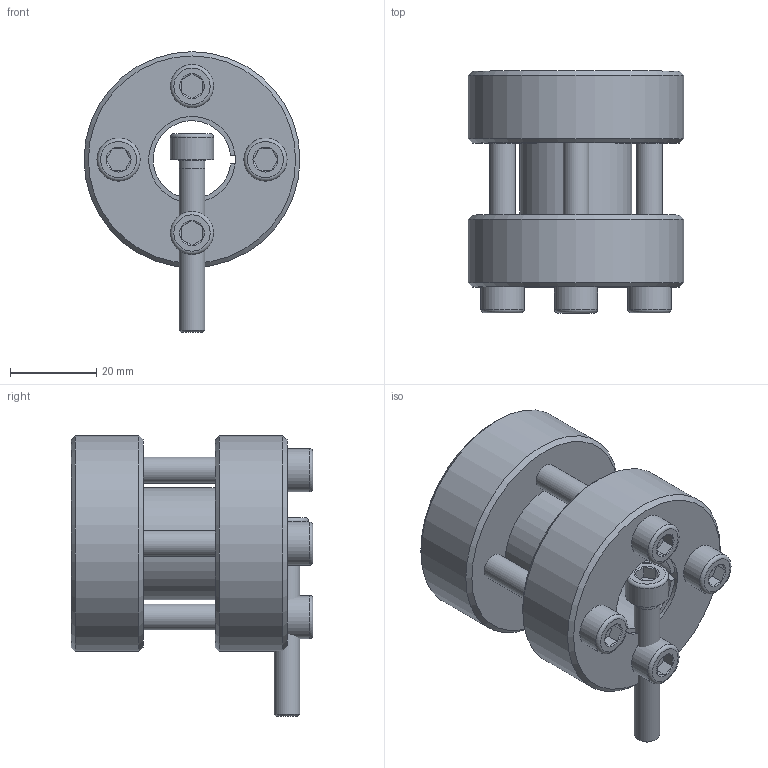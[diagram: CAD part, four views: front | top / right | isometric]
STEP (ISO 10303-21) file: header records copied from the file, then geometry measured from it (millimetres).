
FILE_DESCRIPTION( ( 'Unknown' ), '1' );
FILE_NAME( 'C:/Dokumente und Einstellungen/Sven/Desktop/homepage/cad - homepage/KBS95/KBS 95 - 18 x 50.stp', 'Unknown', ( 'Unknown' ), ( 'Unknown' ), 'XStep 1.0', 'Unknown', ' ' );
FILE_SCHEMA( ( 'automotive_design' ) );
Length unit declared in the file: millimetre
Products named in the file (3): Assem1; KBS 95 - 18 x 50; ISO EN DIN 4762 M6x40
Bounding box: 50 x 56 x 65 mm (x, y, z)
Volume: 121787.8 mm3; surface area: 41068.6 mm2
Topology: 7 solids, 7 shells, 181 faces, 379 edges, 232 vertices
Faces by surface type: plane 80, cone 47, cylinder 44, torus 10
Full cylindrical faces by diameter (mm): 5 x5, 6 x26, 10 x5, 50 x4
Entity records: 1702 total; most frequent: CARTESIAN_POINT 295, DIRECTION 252, ORIENTED_EDGE 190, AXIS2_PLACEMENT_3D 108, EDGE_LOOP 98, EDGE_CURVE 95, VERTEX_POINT 71, FACE_OUTER_BOUND 69
